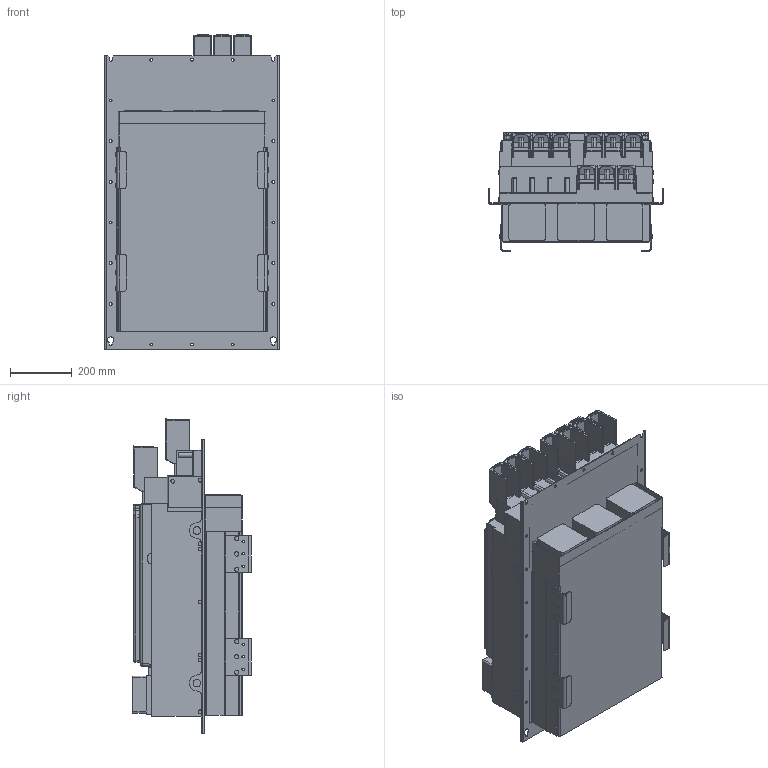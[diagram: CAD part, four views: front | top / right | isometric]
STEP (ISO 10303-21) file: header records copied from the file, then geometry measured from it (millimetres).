
FILE_DESCRIPTION (( 'STEP AP214' ), '1' );
FILE_NAME ('F6-9TR5-P150.STEP', '2023-03-17T07:19:12', ( '' ), ( '' ), 'SwSTEP 2.0', 'SolidWorks 2022', '' );
FILE_SCHEMA (( 'AUTOMOTIVE_DESIGN' ));
Length unit declared in the file: millimetre
Products named in the file (14): 10068272_000_Kundenmodell; 10059670_000_Kundenmodell; 10051076_000_Kundenmodell; 10059764_000_Blindabdeckung (Kundenmodell); Kundenmodell^10059764_000; Kundenmodell^10044088_000; 10054881_000_Deckel (Kundenmodell); 10049764_000_Kundenmodell; Kundenmodell^10068272_000; Kundenmodell^10049764_000; Kundenmodell^10054881_000; 10044088_000_Kundenmodell; Kundenmodell^10051076_000_Kundenmodell mit Geberbuchsen; F6-9TR5-P150
Assembly tree (13 placements, depth 4):
  F6-9TR5-P150
    10059670_000_Kundenmodell
      10068272_000_Kundenmodell
        Kundenmodell^10068272_000
    10049764_000_Kundenmodell
      Kundenmodell^10049764_000
    10051076_000_Kundenmodell
      10059764_000_Blindabdeckung (Kundenmodell)
        Kundenmodell^10059764_000
      Kundenmodell^10051076_000_Kundenmodell mit Geberbuchsen
    10044088_000_Kundenmodell
      Kundenmodell^10044088_000
    10054881_000_Deckel (Kundenmodell)
      Kundenmodell^10054881_000
Bounding box: 566 x 385 x 1024.88 mm (x, y, z)
Volume: 126996310 mm3; surface area: 4518812.6 mm2
Topology: 6 solids, 6 shells, 2918 faces, 7672 edges, 4824 vertices
Faces by surface type: plane 1396, cylinder 964, bspline 273, cone 120, sphere 92, torus 73
Entity records: 98308 total; most frequent: CARTESIAN_POINT 27646, ORIENTED_EDGE 15176, DIRECTION 13974, EDGE_CURVE 7588, VERTEX_POINT 4824, VECTOR 4698, LINE 4698, AXIS2_PLACEMENT_3D 4638
